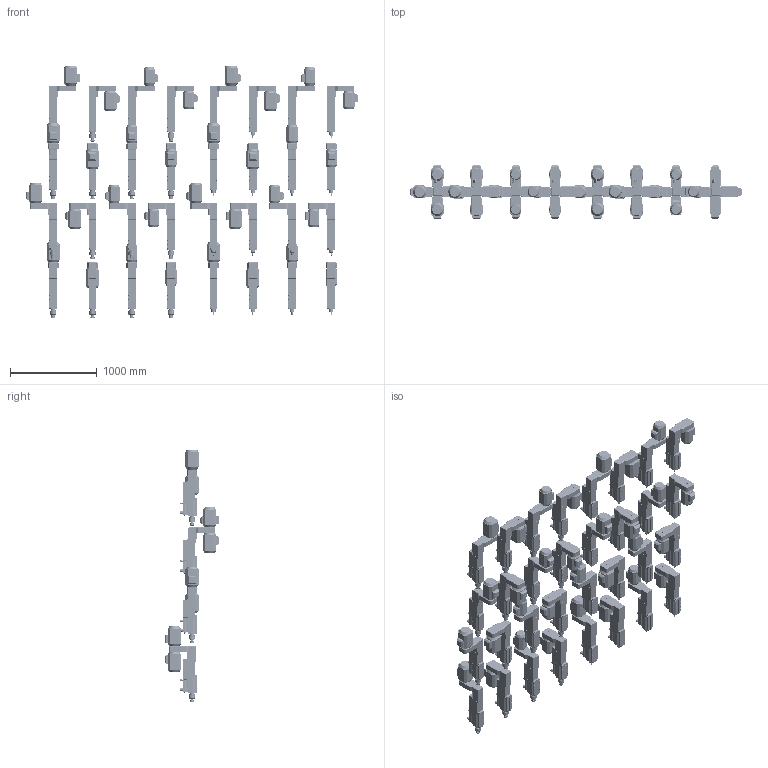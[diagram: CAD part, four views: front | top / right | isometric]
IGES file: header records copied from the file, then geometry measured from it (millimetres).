
Start section: SolidWorks IGES file using analytic representation for surfaces
Global section: file name: R:\Inventor\Kundmodeller Solidworks\BE48\BE481-482-485 JT2 and ER32 - all configurations.IGS; native system: SolidWorks 2008; preprocessor: SolidWorks 2008; author: Johan; date: 091014.094807; units: millimetre
Bounding box: 3829 x 626 x 2914.46 mm (x, y, z)
Surface area: 21462533.3 mm2 (no closed solid volume)
Topology: 0 solids, 0 shells, 14208 faces, 156544 edges, 156000 vertices
Faces by surface type: bspline 8672, revolution 5536
